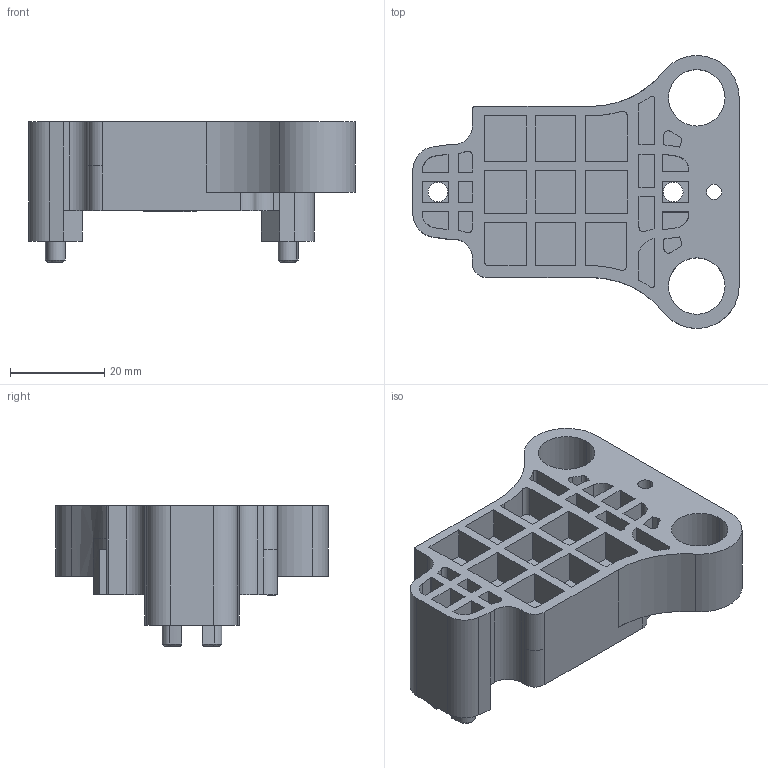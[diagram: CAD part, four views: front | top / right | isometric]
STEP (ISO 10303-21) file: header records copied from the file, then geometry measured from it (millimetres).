
FILE_DESCRIPTION(('CATIA V5 STEP Exchange'),'2;1');
FILE_NAME('C:\Users\myyao\Desktop\新建文件夹\TY62.06_V2_3D打印用.stp','2019-04-15T02:49:07+00:00',('none'),('none'),'CATIA Version 5 Release 21 GA (IN-10)','CATIA V5 STEP AP203','none');
FILE_SCHEMA(('CONFIG_CONTROL_DESIGN'));
Products named in the file (1): 传感器支架
Bounding box: 69.34 x 57.95 x 29.9 mm (x, y, z)
Volume: 24606.7 mm3; surface area: 19481.2 mm2
Topology: 1 solids, 1 shells, 2208 faces, 6430 edges, 4283 vertices
Faces by surface type: plane 2101, cylinder 90, cone 12, extrusion 5
Entity records: 70641 total; most frequent: ORIENTED_EDGE 12860, CARTESIAN_POINT 12851, DIRECTION 10483, EDGE_CURVE 6430, VECTOR 6215, LINE 6210, VERTEX_POINT 4283, EDGE_LOOP 2277
